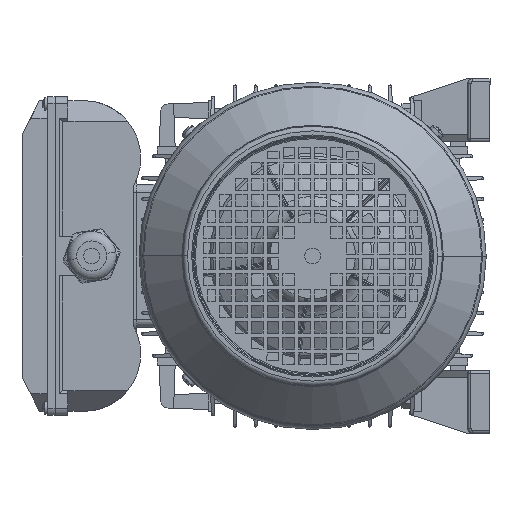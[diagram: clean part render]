
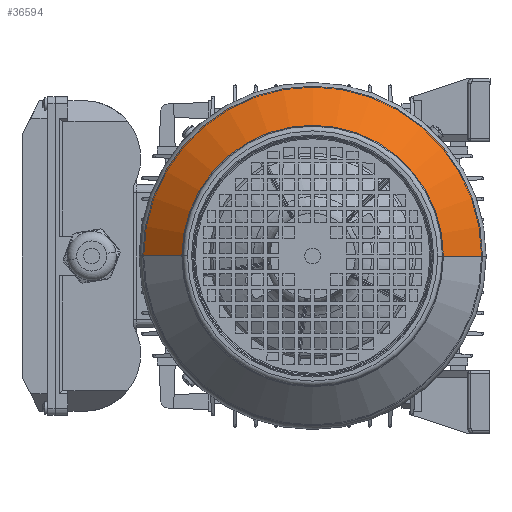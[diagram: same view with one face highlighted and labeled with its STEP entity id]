
A CAD part, left-side view. The second image highlights one B-rep face of the part: STEP entity #36594.
In plain terms, the highlighted conical face has half-angle 45 degrees and reference radius 82.586 mm.
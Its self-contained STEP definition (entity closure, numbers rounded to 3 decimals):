
#2658 = CARTESIAN_POINT ( 'NONE',  ( 99.414, 0., 82.586 ) ) ;
#5142 = VERTEX_POINT ( 'NONE', #122619 ) ;
#6061 = ORIENTED_EDGE ( 'NONE', *, *, #21497, .F. ) ;
#10202 = DIRECTION ( 'NONE',  ( -1., 0., 0. ) ) ;
#11408 = AXIS2_PLACEMENT_3D ( 'NONE', #99468, #12638, #22347 ) ;
#12638 = DIRECTION ( 'NONE',  ( -1., 0., 0. ) ) ;
#15226 = ORIENTED_EDGE ( 'NONE', *, *, #54827, .F. ) ;
#17940 = LINE ( 'NONE', #35067, #111916 ) ;
#18235 = DIRECTION ( 'NONE',  ( 0., 0., 1. ) ) ;
#18525 = EDGE_CURVE ( 'NONE', #51893, #114309, #17940, .T. ) ;
#19585 = CARTESIAN_POINT ( 'NONE',  ( 99.414, 0., -82.586 ) ) ;
#20183 = VECTOR ( 'NONE', #48044, 1000. ) ;
#21497 = EDGE_CURVE ( 'NONE', #5142, #114309, #122545, .T. ) ;
#21651 = DIRECTION ( 'NONE',  ( 0., 0., 1. ) ) ;
#22000 = AXIS2_PLACEMENT_3D ( 'NONE', #66545, #10202, #18235 ) ;
#22347 = DIRECTION ( 'NONE',  ( 0., 0., 1. ) ) ;
#23722 = CARTESIAN_POINT ( 'NONE',  ( 74.743, 0., 107.257 ) ) ;
#35067 = CARTESIAN_POINT ( 'NONE',  ( 99.414, 0., 82.586 ) ) ;
#36594 = ADVANCED_FACE ( 'NONE', ( #99717 ), #48189, .T. ) ;
#43187 = ORIENTED_EDGE ( 'NONE', *, *, #105026, .T. ) ;
#47184 = ORIENTED_EDGE ( 'NONE', *, *, #18525, .T. ) ;
#48044 = DIRECTION ( 'NONE',  ( -0.707, 0., -0.707 ) ) ;
#48189 = CONICAL_SURFACE ( 'NONE', #11408, 82.586, 0.785 ) ;
#51893 = VERTEX_POINT ( 'NONE', #2658 ) ;
#54827 = EDGE_CURVE ( 'NONE', #123230, #5142, #97522, .T. ) ;
#66545 = CARTESIAN_POINT ( 'NONE',  ( 99.414, 0., 0. ) ) ;
#69525 = CARTESIAN_POINT ( 'NONE',  ( 74.743, 0., 0. ) ) ;
#79686 = DIRECTION ( 'NONE',  ( -1., 0., 0. ) ) ;
#81861 = CARTESIAN_POINT ( 'NONE',  ( 99.414, 0., -82.586 ) ) ;
#83756 = DIRECTION ( 'NONE',  ( -0.707, 0., 0.707 ) ) ;
#94186 = CIRCLE ( 'NONE', #22000, 82.586 ) ;
#97522 = LINE ( 'NONE', #19585, #20183 ) ;
#99468 = CARTESIAN_POINT ( 'NONE',  ( 99.414, 0., 0. ) ) ;
#99717 = FACE_OUTER_BOUND ( 'NONE', #116460, .T. ) ;
#105026 = EDGE_CURVE ( 'NONE', #123230, #51893, #94186, .T. ) ;
#111916 = VECTOR ( 'NONE', #83756, 1000. ) ;
#114309 = VERTEX_POINT ( 'NONE', #23722 ) ;
#116460 = EDGE_LOOP ( 'NONE', ( #15226, #43187, #47184, #6061 ) ) ;
#122545 = CIRCLE ( 'NONE', #123416, 107.257 ) ;
#122619 = CARTESIAN_POINT ( 'NONE',  ( 74.743, 0., -107.257 ) ) ;
#123230 = VERTEX_POINT ( 'NONE', #81861 ) ;
#123416 = AXIS2_PLACEMENT_3D ( 'NONE', #69525, #79686, #21651 ) ;
